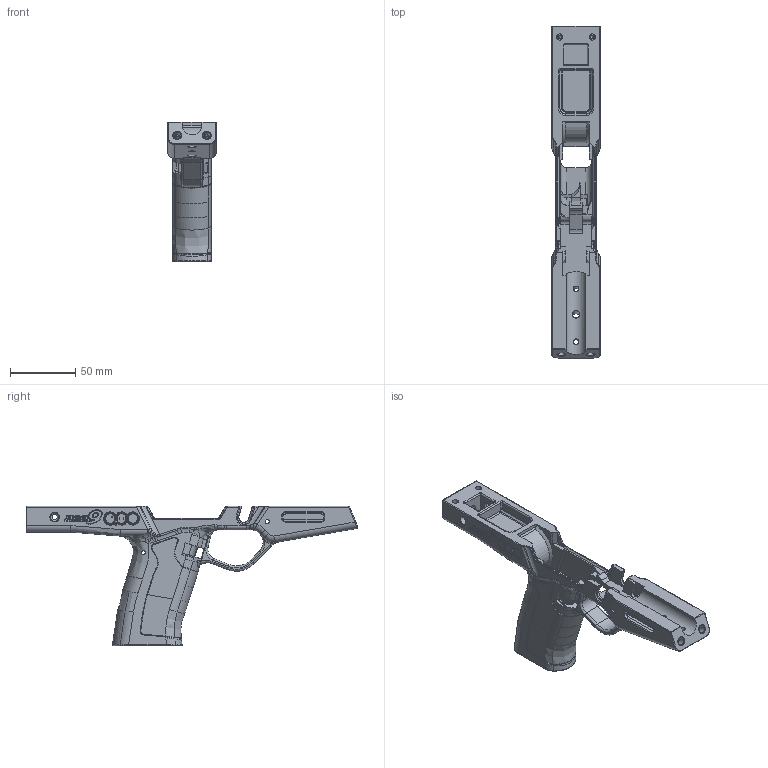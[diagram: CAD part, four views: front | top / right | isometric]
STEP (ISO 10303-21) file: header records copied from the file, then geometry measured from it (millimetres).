
FILE_DESCRIPTION(/* description */ ('STEP AP214','CAx-IF Rec.Pracs.---User Defined Attributes---1.5---2016-08-15'),/* implementation_level */ '2;1');
FILE_NAME(/* name */ '6a9b0e940a6c98029f8defd2',/* time_stamp */ '2026-09-04T18:31:50Z',/* author */ (''),/* organization */ (''),/* preprocessor_version */ 'ST-DEVELOPER v20',/* originating_system */ 'ONSHAPE BY PTC INC, 1.220',/* authorisation */ ' ');
FILE_SCHEMA (('AUTOMOTIVE_DESIGN {1 0 10303 214 3 1 1}'));
Length unit declared in the file: metre
Products named in the file (1): NEO9 G80
Bounding box: 37 x 254.35 x 106.67 mm (x, y, z)
Volume: 156801.8 mm3; surface area: 61304.9 mm2
Topology: 1 solids, 2 shells, 996 faces, 2482 edges, 1456 vertices
Faces by surface type: cylinder 296, bspline 293, plane 247, torus 75, cone 56, sphere 29
Full cylindrical faces by diameter (mm): 1.321 x1, 2.8 x2, 3 x4, 4 x4, 4.1 x2, 4.7 x2, 5.6 x1, 5.7 x1, 5.85 x2, 6.4 x2, 6.8 x2, 7.8 x1, 11.811 x1
Entity records: 35992 total; most frequent: CARTESIAN_POINT 14579, ORIENTED_EDGE 4712, DIRECTION 4080, EDGE_CURVE 2356, AXIS2_PLACEMENT_3D 1575, VERTEX_POINT 1432, FACE_BOUND 1094, EDGE_LOOP 1090
